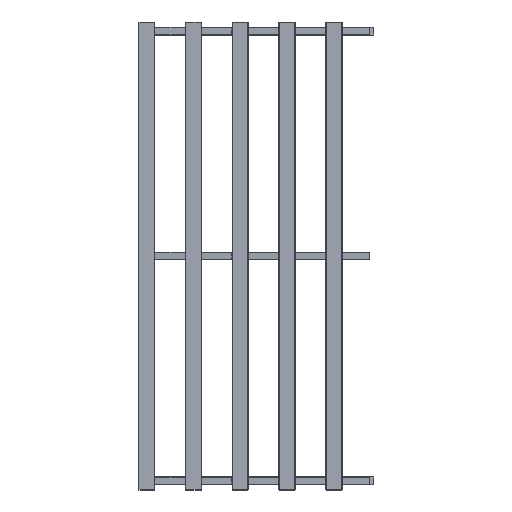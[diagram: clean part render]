
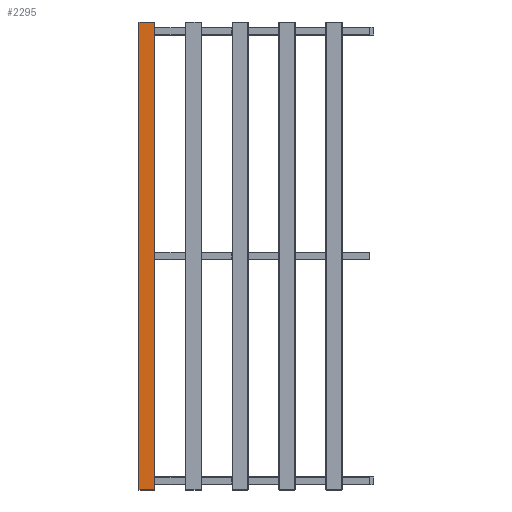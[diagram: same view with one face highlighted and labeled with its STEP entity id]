
A CAD part, top view. The second image highlights one B-rep face of the part: STEP entity #2295.
In plain terms, the highlighted planar face has unit normal (0, 0, 1) as drawn and (1, 0, 0) by its records, which use the part's own axes.
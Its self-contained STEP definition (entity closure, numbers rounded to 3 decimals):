
#129 = VERTEX_POINT ( 'NONE', #1823 ) ;
#140 = ORIENTED_EDGE ( 'NONE', *, *, #1094, .T. ) ;
#167 = VECTOR ( 'NONE', #1691, 1000. ) ;
#178 = VERTEX_POINT ( 'NONE', #3212 ) ;
#218 = ORIENTED_EDGE ( 'NONE', *, *, #3553, .T. ) ;
#531 = DIRECTION ( 'NONE',  ( 0., 1., 0. ) ) ;
#621 = AXIS2_PLACEMENT_3D ( 'NONE', #2582, #1779, #955 ) ;
#705 = EDGE_LOOP ( 'NONE', ( #1419, #218, #1362, #140 ) ) ;
#741 = VERTEX_POINT ( 'NONE', #3561 ) ;
#776 = EDGE_CURVE ( 'NONE', #741, #129, #2756, .T. ) ;
#827 = VECTOR ( 'NONE', #3302, 1000. ) ;
#889 = CARTESIAN_POINT ( 'NONE',  ( 10., 19.6, 599.5 ) ) ;
#955 = DIRECTION ( 'NONE',  ( 0., 0., 1. ) ) ;
#975 = VERTEX_POINT ( 'NONE', #1676 ) ;
#1094 = EDGE_CURVE ( 'NONE', #975, #129, #1743, .T. ) ;
#1314 = LINE ( 'NONE', #2217, #827 ) ;
#1362 = ORIENTED_EDGE ( 'NONE', *, *, #2770, .T. ) ;
#1365 = VECTOR ( 'NONE', #3271, 1000. ) ;
#1381 = VECTOR ( 'NONE', #531, 1000. ) ;
#1419 = ORIENTED_EDGE ( 'NONE', *, *, #776, .F. ) ;
#1497 = PLANE ( 'NONE',  #621 ) ;
#1533 = FACE_OUTER_BOUND ( 'NONE', #705, .T. ) ;
#1597 = CARTESIAN_POINT ( 'NONE',  ( 10., -21., -599.5 ) ) ;
#1652 = LINE ( 'NONE', #1597, #1381 ) ;
#1676 = CARTESIAN_POINT ( 'NONE',  ( 10., 19.6, -599.5 ) ) ;
#1691 = DIRECTION ( 'NONE',  ( 0., 0., 1. ) ) ;
#1743 = LINE ( 'NONE', #889, #167 ) ;
#1779 = DIRECTION ( 'NONE',  ( -1., 0., 0. ) ) ;
#1823 = CARTESIAN_POINT ( 'NONE',  ( 10., 19.6, 599.5 ) ) ;
#2217 = CARTESIAN_POINT ( 'NONE',  ( 10., -19.6, 599.5 ) ) ;
#2295 = ADVANCED_FACE ( 'NONE', ( #1533 ), #1497, .F. ) ;
#2475 = CARTESIAN_POINT ( 'NONE',  ( 10., -21., 599.5 ) ) ;
#2582 = CARTESIAN_POINT ( 'NONE',  ( 10., -21., 599.5 ) ) ;
#2756 = LINE ( 'NONE', #2475, #1365 ) ;
#2770 = EDGE_CURVE ( 'NONE', #178, #975, #1652, .T. ) ;
#3212 = CARTESIAN_POINT ( 'NONE',  ( 10., -19.6, -599.5 ) ) ;
#3271 = DIRECTION ( 'NONE',  ( 0., 1., 0. ) ) ;
#3302 = DIRECTION ( 'NONE',  ( 0., 0., -1. ) ) ;
#3553 = EDGE_CURVE ( 'NONE', #741, #178, #1314, .T. ) ;
#3561 = CARTESIAN_POINT ( 'NONE',  ( 10., -19.6, 599.5 ) ) ;
